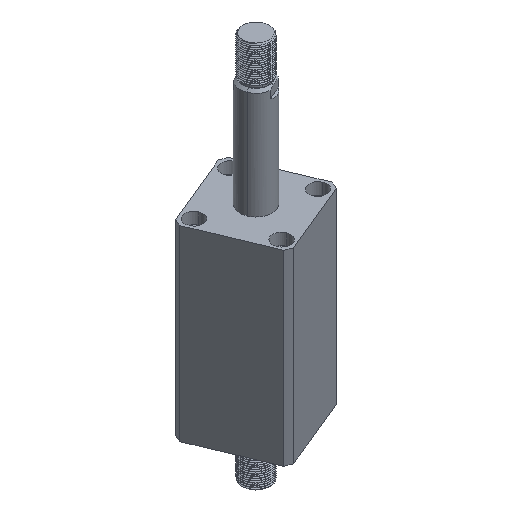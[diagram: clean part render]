
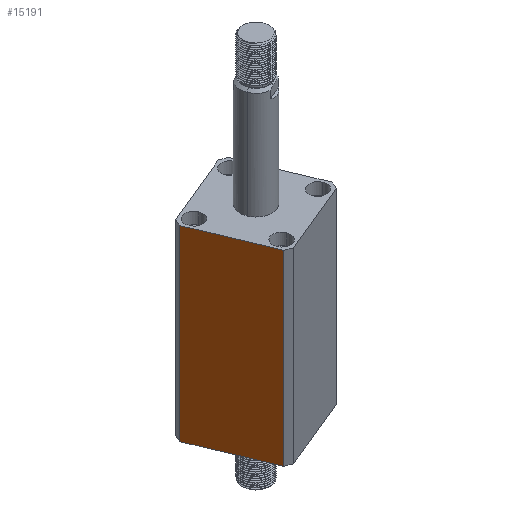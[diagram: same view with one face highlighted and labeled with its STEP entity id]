
A CAD part, isometric view. The second image highlights one B-rep face of the part: STEP entity #15191.
In plain terms, the highlighted planar face has unit normal (-0.924, -0.383, 0) as drawn and (1, 0, 0) by its records, which use the part's own axes.
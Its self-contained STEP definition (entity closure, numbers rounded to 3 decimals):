
#532 = DIRECTION ( 'NONE',  ( 0., 0., 1. ) ) ;
#555 = LINE ( 'NONE', #4528, #6015 ) ;
#1622 = VERTEX_POINT ( 'NONE', #2902 ) ;
#1632 = ORIENTED_EDGE ( 'NONE', *, *, #11887, .F. ) ;
#2209 = DIRECTION ( 'NONE',  ( 0., 1., 0. ) ) ;
#2466 = ORIENTED_EDGE ( 'NONE', *, *, #14189, .T. ) ;
#2772 = EDGE_CURVE ( 'NONE', #1622, #11350, #2843, .T. ) ;
#2843 = LINE ( 'NONE', #15118, #9594 ) ;
#2902 = CARTESIAN_POINT ( 'NONE',  ( 35., 30.615, 145. ) ) ;
#3883 = VERTEX_POINT ( 'NONE', #8262 ) ;
#3991 = AXIS2_PLACEMENT_3D ( 'NONE', #12617, #11202, #16736 ) ;
#4361 = ORIENTED_EDGE ( 'NONE', *, *, #2772, .F. ) ;
#4528 = CARTESIAN_POINT ( 'NONE',  ( 35., -30.615, -155. ) ) ;
#5410 = CARTESIAN_POINT ( 'NONE',  ( 35., 30.615, 0. ) ) ;
#5559 = VECTOR ( 'NONE', #2209, 1000. ) ;
#5804 = ORIENTED_EDGE ( 'NONE', *, *, #9380, .F. ) ;
#6015 = VECTOR ( 'NONE', #532, 1000. ) ;
#6885 = DIRECTION ( 'NONE',  ( 0., 0., -1. ) ) ;
#8262 = CARTESIAN_POINT ( 'NONE',  ( 35., -30.615, 0. ) ) ;
#8313 = VERTEX_POINT ( 'NONE', #11459 ) ;
#9105 = VECTOR ( 'NONE', #15421, 1000. ) ;
#9380 = EDGE_CURVE ( 'NONE', #8313, #1622, #9533, .T. ) ;
#9533 = LINE ( 'NONE', #14047, #9105 ) ;
#9594 = VECTOR ( 'NONE', #6885, 1000. ) ;
#10122 = EDGE_LOOP ( 'NONE', ( #1632, #2466, #4361, #5804 ) ) ;
#11202 = DIRECTION ( 'NONE',  ( -1., 0., 0. ) ) ;
#11350 = VERTEX_POINT ( 'NONE', #5410 ) ;
#11459 = CARTESIAN_POINT ( 'NONE',  ( 35., -30.615, 145. ) ) ;
#11887 = EDGE_CURVE ( 'NONE', #3883, #8313, #555, .T. ) ;
#12617 = CARTESIAN_POINT ( 'NONE',  ( 35., 35., 145. ) ) ;
#14047 = CARTESIAN_POINT ( 'NONE',  ( 35., 35., 145. ) ) ;
#14189 = EDGE_CURVE ( 'NONE', #3883, #11350, #16467, .T. ) ;
#15118 = CARTESIAN_POINT ( 'NONE',  ( 35., 30.615, -155. ) ) ;
#15191 = ADVANCED_FACE ( 'NONE', ( #16219 ), #15375, .F. ) ;
#15375 = PLANE ( 'NONE',  #3991 ) ;
#15421 = DIRECTION ( 'NONE',  ( 0., 1., 0. ) ) ;
#16076 = CARTESIAN_POINT ( 'NONE',  ( 35., 35., 0. ) ) ;
#16219 = FACE_OUTER_BOUND ( 'NONE', #10122, .T. ) ;
#16467 = LINE ( 'NONE', #16076, #5559 ) ;
#16736 = DIRECTION ( 'NONE',  ( 0., -1., 0. ) ) ;
